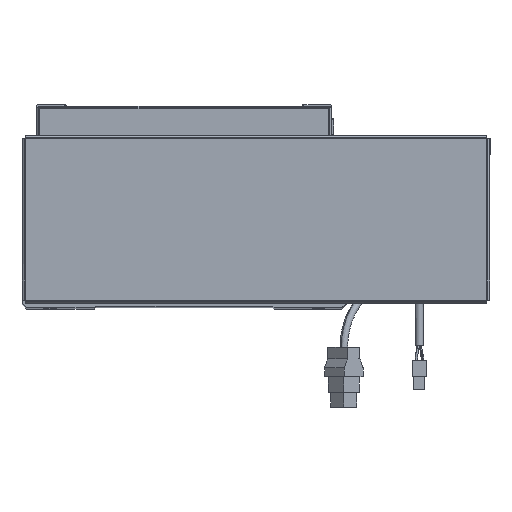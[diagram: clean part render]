
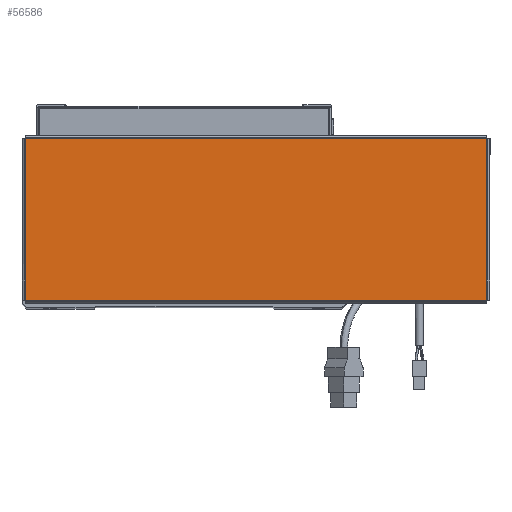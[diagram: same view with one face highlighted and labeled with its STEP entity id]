
A CAD part, top view. The second image highlights one B-rep face of the part: STEP entity #56586.
In plain terms, the highlighted planar face has unit normal (0, 0, 1).
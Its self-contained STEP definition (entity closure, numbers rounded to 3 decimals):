
#2656 = LINE ( 'NONE', #46946, #40369 ) ;
#2781 = VERTEX_POINT ( 'NONE', #4711 ) ;
#3040 = FACE_OUTER_BOUND ( 'NONE', #16011, .T. ) ;
#4352 = DIRECTION ( 'NONE',  ( 0., 0., 1. ) ) ;
#4711 = CARTESIAN_POINT ( 'NONE',  ( -156.513, 54.763, 0. ) ) ;
#6092 = LINE ( 'NONE', #56034, #39966 ) ;
#8495 = DIRECTION ( 'NONE',  ( -1., 0., 0. ) ) ;
#16011 = EDGE_LOOP ( 'NONE', ( #49530, #53667, #56147, #41622 ) ) ;
#19306 = EDGE_CURVE ( 'NONE', #63145, #61242, #56142, .T. ) ;
#21623 = DIRECTION ( 'NONE',  ( 0., 1., 0. ) ) ;
#21790 = AXIS2_PLACEMENT_3D ( 'NONE', #54113, #4352, #58628 ) ;
#22320 = DIRECTION ( 'NONE',  ( 1., 0., 0. ) ) ;
#23174 = CARTESIAN_POINT ( 'NONE',  ( 156.513, 54.763, 0. ) ) ;
#24468 = CARTESIAN_POINT ( 'NONE',  ( -156.513, -54.763, 0. ) ) ;
#24530 = PLANE ( 'NONE',  #21790 ) ;
#27805 = CARTESIAN_POINT ( 'NONE',  ( 156.543, 54.763, 0. ) ) ;
#29449 = EDGE_CURVE ( 'NONE', #61242, #2781, #60341, .T. ) ;
#34111 = VECTOR ( 'NONE', #8495, 1000. ) ;
#34662 = DIRECTION ( 'NONE',  ( 0., -1., 0. ) ) ;
#34996 = CARTESIAN_POINT ( 'NONE',  ( 156.513, -54.793, 0. ) ) ;
#39966 = VECTOR ( 'NONE', #34662, 1000. ) ;
#40369 = VECTOR ( 'NONE', #22320, 1000. ) ;
#41622 = ORIENTED_EDGE ( 'NONE', *, *, #43286, .T. ) ;
#43286 = EDGE_CURVE ( 'NONE', #2781, #45759, #6092, .T. ) ;
#45759 = VERTEX_POINT ( 'NONE', #24468 ) ;
#46946 = CARTESIAN_POINT ( 'NONE',  ( -156.543, -54.763, 0. ) ) ;
#49530 = ORIENTED_EDGE ( 'NONE', *, *, #52347, .T. ) ;
#50263 = CARTESIAN_POINT ( 'NONE',  ( 156.513, -54.763, 0. ) ) ;
#52347 = EDGE_CURVE ( 'NONE', #45759, #63145, #2656, .T. ) ;
#53667 = ORIENTED_EDGE ( 'NONE', *, *, #19306, .T. ) ;
#54113 = CARTESIAN_POINT ( 'NONE',  ( 0., 0., 0. ) ) ;
#56034 = CARTESIAN_POINT ( 'NONE',  ( -156.513, 54.793, 0. ) ) ;
#56142 = LINE ( 'NONE', #34996, #62284 ) ;
#56147 = ORIENTED_EDGE ( 'NONE', *, *, #29449, .T. ) ;
#56586 = ADVANCED_FACE ( 'NONE', ( #3040 ), #24530, .T. ) ;
#58628 = DIRECTION ( 'NONE',  ( 1., 0., 0. ) ) ;
#60341 = LINE ( 'NONE', #27805, #34111 ) ;
#61242 = VERTEX_POINT ( 'NONE', #23174 ) ;
#62284 = VECTOR ( 'NONE', #21623, 1000. ) ;
#63145 = VERTEX_POINT ( 'NONE', #50263 ) ;
